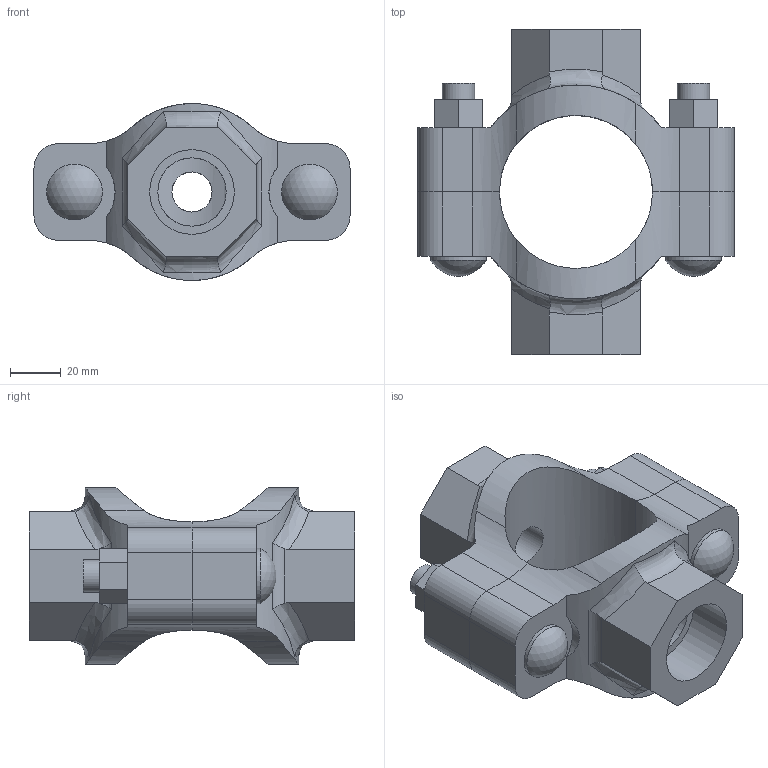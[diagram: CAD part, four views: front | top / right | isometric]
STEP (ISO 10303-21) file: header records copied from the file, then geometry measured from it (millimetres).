
FILE_DESCRIPTION(/* description */ ('VIC MECH-T BRANCH OUTLET CROSS STYLE 920N (THD)','CAx-IF Rec.Pracs.---Representation and Presentation of Product Manufacturing Information (PMI)---4.0---2014-10-13'),/* implementation_level */ '2;1');
FILE_NAME(/* name */ 'C:\Users\Vjadhav\AppData\Roaming\Autodesk\ApplicationPlugins\Back Up\Victaulic_IPS_Mechanical-Cross Outlet_Style 920N (FPT)\Victaulic_IPS_Mechanical-Cross Outlet_02.0x0.5x01.0 (50x15x25).stp',/* time_stamp */ '2020-08-06T18:55:48+05:00',/* author */ ('Vjadhav'),/* organization */ ('Victaulic'),/* preprocessor_version */ 'ST-DEVELOPER v17.2',/* originating_system */ 'Autodesk Inventor 2019',/* authorisation */ '');
FILE_SCHEMA (('AP242_MANAGED_MODEL_BASED_3D_ENGINEERING_MIM_LF { 1 0 10303 442 1 1 4 }'));
Length unit declared in the file: inch
Products named in the file (3): 920NT-02.0x0.5x01.0; 920NT-02.0x0.5; 920NT-02.0x01.0
Assembly tree (2 placements, depth 2):
  920NT-02.0x0.5x01.0
    920NT-02.0x0.5
    920NT-02.0x01.0
Bounding box: 124.71 x 128.52 x 69.83 mm (x, y, z)
Volume: 297926.1 mm3; surface area: 66471.6 mm2
Topology: 2 solids, 2 shells, 132 faces, 350 edges, 236 vertices
Faces by surface type: plane 68, cylinder 50, bspline 8, torus 4, sphere 2
Full cylindrical faces by diameter (mm): 12.7 x4, 15.799 x1, 21.336 x1, 21.982 x2, 26.987 x1, 33.401 x1
Entity records: 5046 total; most frequent: CARTESIAN_POINT 1533, ORIENTED_EDGE 700, DIRECTION 648, EDGE_CURVE 350, VERTEX_POINT 236, AXIS2_PLACEMENT_3D 231, LINE 186, VECTOR 186
